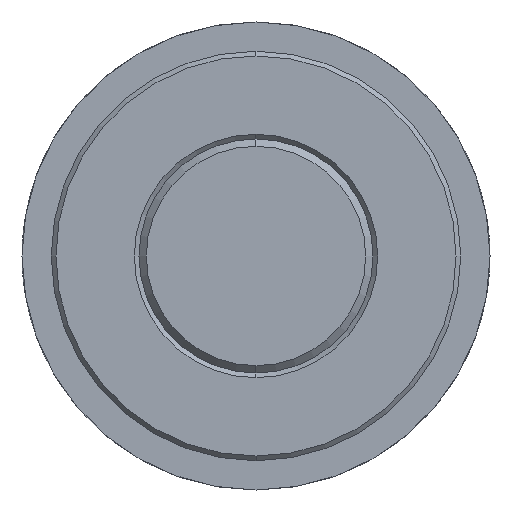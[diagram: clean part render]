
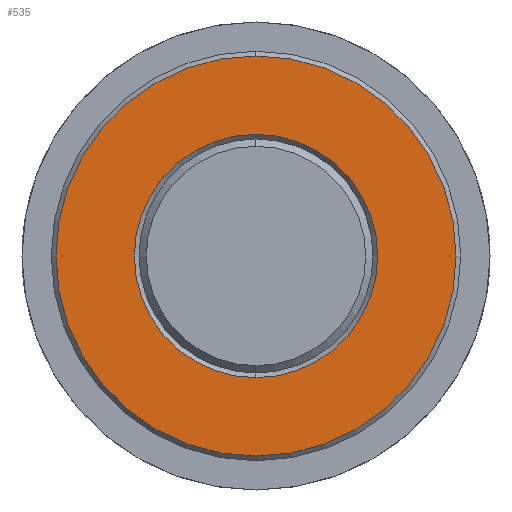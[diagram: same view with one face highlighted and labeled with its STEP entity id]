
A CAD part, left-side view. The second image highlights one B-rep face of the part: STEP entity #535.
In plain terms, the highlighted planar face has unit normal (-1, 0, 0).
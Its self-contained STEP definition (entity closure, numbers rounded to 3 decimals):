
#237=VERTEX_POINT('',#632);
#267=VERTEX_POINT('',#668);
#293=EDGE_CURVE('',#437,#407,#696,.T.);
#321=EDGE_CURVE('',#237,#267,#725,.T.);
#371=EDGE_CURVE('',#267,#237,#783,.T.);
#395=EDGE_CURVE('',#407,#437,#809,.T.);
#407=VERTEX_POINT('',#822);
#437=VERTEX_POINT('',#856);
#535=ADVANCED_FACE('',(#964,#965),#966,.T.);
#632=CARTESIAN_POINT('',(25.0,0.0,10.4));
#668=CARTESIAN_POINT('',(25.0,0.,-10.4));
#696=CIRCLE('',#1154,17.1);
#725=CIRCLE('',#1213,10.4);
#783=CIRCLE('',#1288,10.4);
#809=CIRCLE('',#1332,17.1);
#822=CARTESIAN_POINT('',(25.0,0.0,17.1));
#856=CARTESIAN_POINT('',(25.0,0.,-17.1));
#964=FACE_BOUND('',#1563,.T.);
#965=FACE_OUTER_BOUND('',#1564,.T.);
#966=PLANE('',#1565);
#1154=AXIS2_PLACEMENT_3D('',#1781,#1782,#1783);
#1213=AXIS2_PLACEMENT_3D('',#1805,#1806,#1807);
#1288=AXIS2_PLACEMENT_3D('',#1897,#1898,#1899);
#1332=AXIS2_PLACEMENT_3D('',#1928,#1929,#1930);
#1563=EDGE_LOOP('',(#2117,#2118));
#1564=EDGE_LOOP('',(#2119,#2120));
#1565=AXIS2_PLACEMENT_3D('',#2121,#2122,#2123);
#1781=CARTESIAN_POINT('',(25.0,0.0,0.0));
#1782=DIRECTION('',(1.0,0.0,-0.0));
#1783=DIRECTION('',(0.0,0.0,1.0));
#1805=CARTESIAN_POINT('',(25.0,0.0,0.0));
#1806=DIRECTION('',(1.0,0.0,0.));
#1807=DIRECTION('',(0.,0.0,1.0));
#1897=CARTESIAN_POINT('',(25.0,0.0,0.0));
#1898=DIRECTION('',(1.0,0.0,0.));
#1899=DIRECTION('',(0.,0.0,1.0));
#1928=CARTESIAN_POINT('',(25.0,0.0,0.0));
#1929=DIRECTION('',(1.0,0.0,-0.0));
#1930=DIRECTION('',(0.0,0.0,1.0));
#2117=ORIENTED_EDGE('',*,*,#321,.T.);
#2118=ORIENTED_EDGE('',*,*,#371,.T.);
#2119=ORIENTED_EDGE('',*,*,#395,.F.);
#2120=ORIENTED_EDGE('',*,*,#293,.F.);
#2121=CARTESIAN_POINT('',(25.0,0.0,8.55));
#2122=DIRECTION('',(-1.0,0.0,0.));
#2123=DIRECTION('',(0.,0.0,-1.0));
